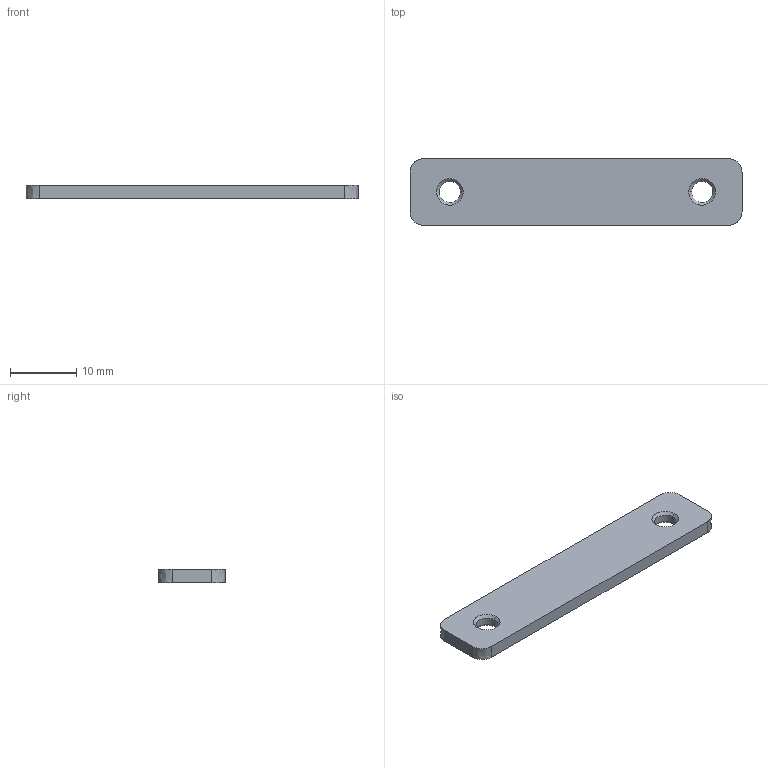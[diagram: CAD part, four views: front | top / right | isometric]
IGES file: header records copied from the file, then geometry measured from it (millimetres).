
Start section:  PTC IGES file: 050033_cp-009.igs
Global section: file name: 050033_cp-009.igs; native system: Pro/ENGINEER by Parametric Technology Corporation; preprocessor: 2004090; author: KAIHATSU01; organization: Unknown; date: 061017.093414; units: millimetre
Bounding box: 50 x 10 x 2 mm (x, y, z)
Volume: 957.4 mm3; surface area: 1225.8 mm2
Topology: 1 solids, 1 shells, 22 faces, 52 edges, 32 vertices
Faces by surface type: bspline 22
